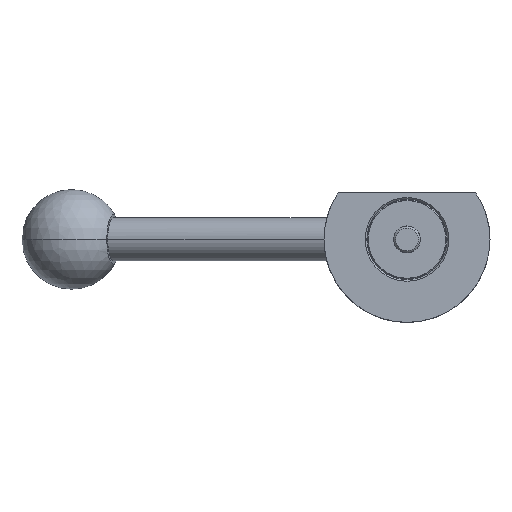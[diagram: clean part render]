
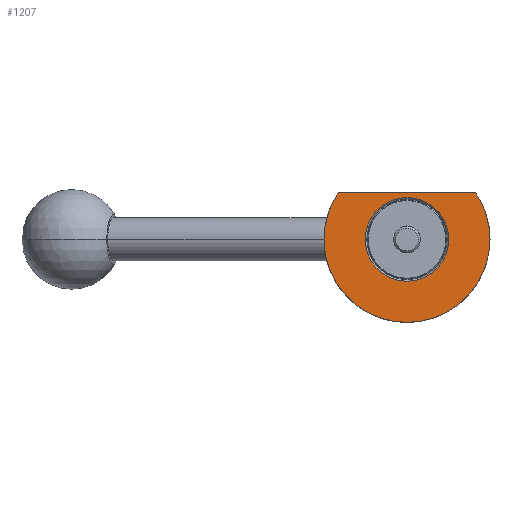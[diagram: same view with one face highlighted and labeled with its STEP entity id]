
A CAD part, front view. The second image highlights one B-rep face of the part: STEP entity #1207.
In plain terms, the highlighted planar face has unit normal (0, -1, 0).
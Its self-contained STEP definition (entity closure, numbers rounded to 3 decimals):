
#36 = CARTESIAN_POINT ( 'NONE',  ( 25., -12., 0. ) ) ;
#48 = ORIENTED_EDGE ( 'NONE', *, *, #1759, .F. ) ;
#55 = CARTESIAN_POINT ( 'NONE',  ( -25., -12., 0. ) ) ;
#66 = CIRCLE ( 'NONE', #1330, 25. ) ;
#76 = AXIS2_PLACEMENT_3D ( 'NONE', #792, #968, #84 ) ;
#84 = DIRECTION ( 'NONE',  ( -1., 0., 0. ) ) ;
#96 = CARTESIAN_POINT ( 'NONE',  ( 0., -12., 0. ) ) ;
#162 = EDGE_LOOP ( 'NONE', ( #1452, #2019, #1986, #48 ) ) ;
#175 = AXIS2_PLACEMENT_3D ( 'NONE', #96, #755, #1205 ) ;
#205 = CARTESIAN_POINT ( 'NONE',  ( -12.6, -12., 14. ) ) ;
#226 = LINE ( 'NONE', #205, #858 ) ;
#229 = CARTESIAN_POINT ( 'NONE',  ( 12.6, -12., 0. ) ) ;
#259 = CARTESIAN_POINT ( 'NONE',  ( 0., -12., 0. ) ) ;
#336 = CARTESIAN_POINT ( 'NONE',  ( -12.6, -12., 0. ) ) ;
#435 = CARTESIAN_POINT ( 'NONE',  ( 0., -12., 0. ) ) ;
#468 = FACE_OUTER_BOUND ( 'NONE', #162, .T. ) ;
#546 = VERTEX_POINT ( 'NONE', #1413 ) ;
#569 = DIRECTION ( 'NONE',  ( 0., 1., 0. ) ) ;
#664 = VERTEX_POINT ( 'NONE', #55 ) ;
#676 = EDGE_CURVE ( 'NONE', #1320, #1750, #66, .T. ) ;
#755 = DIRECTION ( 'NONE',  ( 0., 1., 0. ) ) ;
#792 = CARTESIAN_POINT ( 'NONE',  ( 0., -12., 0. ) ) ;
#858 = VECTOR ( 'NONE', #1122, 1000. ) ;
#924 = CIRCLE ( 'NONE', #76, 25. ) ;
#927 = AXIS2_PLACEMENT_3D ( 'NONE', #1993, #1685, #1795 ) ;
#962 = PLANE ( 'NONE',  #1172 ) ;
#968 = DIRECTION ( 'NONE',  ( 0., 1., 0. ) ) ;
#970 = CARTESIAN_POINT ( 'NONE',  ( -12.6, -12., 0. ) ) ;
#1011 = DIRECTION ( 'NONE',  ( -1., 0., 0. ) ) ;
#1029 = DIRECTION ( 'NONE',  ( 0., 1., 0. ) ) ;
#1057 = DIRECTION ( 'NONE',  ( -1., 0., 0. ) ) ;
#1122 = DIRECTION ( 'NONE',  ( -1., 0., 0. ) ) ;
#1172 = AXIS2_PLACEMENT_3D ( 'NONE', #336, #1583, #1914 ) ;
#1199 = VERTEX_POINT ( 'NONE', #970 ) ;
#1205 = DIRECTION ( 'NONE',  ( -1., 0., 0. ) ) ;
#1207 = ADVANCED_FACE ( 'NONE', ( #1719, #468 ), #962, .T. ) ;
#1264 = ORIENTED_EDGE ( 'NONE', *, *, #1586, .T. ) ;
#1298 = CIRCLE ( 'NONE', #1800, 25. ) ;
#1320 = VERTEX_POINT ( 'NONE', #1574 ) ;
#1330 = AXIS2_PLACEMENT_3D ( 'NONE', #259, #569, #1011 ) ;
#1410 = VERTEX_POINT ( 'NONE', #229 ) ;
#1413 = CARTESIAN_POINT ( 'NONE',  ( -20.712, -12., 14. ) ) ;
#1452 = ORIENTED_EDGE ( 'NONE', *, *, #676, .F. ) ;
#1490 = EDGE_LOOP ( 'NONE', ( #1264, #1721 ) ) ;
#1574 = CARTESIAN_POINT ( 'NONE',  ( 20.712, -12., 14. ) ) ;
#1583 = DIRECTION ( 'NONE',  ( 0., -1., 0. ) ) ;
#1586 = EDGE_CURVE ( 'NONE', #1410, #1199, #1973, .T. ) ;
#1597 = EDGE_CURVE ( 'NONE', #664, #546, #1298, .T. ) ;
#1685 = DIRECTION ( 'NONE',  ( 0., 1., 0. ) ) ;
#1719 = FACE_BOUND ( 'NONE', #1490, .T. ) ;
#1721 = ORIENTED_EDGE ( 'NONE', *, *, #1989, .T. ) ;
#1750 = VERTEX_POINT ( 'NONE', #36 ) ;
#1759 = EDGE_CURVE ( 'NONE', #1750, #664, #924, .T. ) ;
#1766 = EDGE_CURVE ( 'NONE', #1320, #546, #226, .T. ) ;
#1795 = DIRECTION ( 'NONE',  ( -1., 0., 0. ) ) ;
#1800 = AXIS2_PLACEMENT_3D ( 'NONE', #435, #1029, #1057 ) ;
#1914 = DIRECTION ( 'NONE',  ( 1., 0., 0. ) ) ;
#1943 = CIRCLE ( 'NONE', #927, 12.6 ) ;
#1973 = CIRCLE ( 'NONE', #175, 12.6 ) ;
#1986 = ORIENTED_EDGE ( 'NONE', *, *, #1597, .F. ) ;
#1989 = EDGE_CURVE ( 'NONE', #1199, #1410, #1943, .T. ) ;
#1993 = CARTESIAN_POINT ( 'NONE',  ( 0., -12., 0. ) ) ;
#2019 = ORIENTED_EDGE ( 'NONE', *, *, #1766, .T. ) ;
